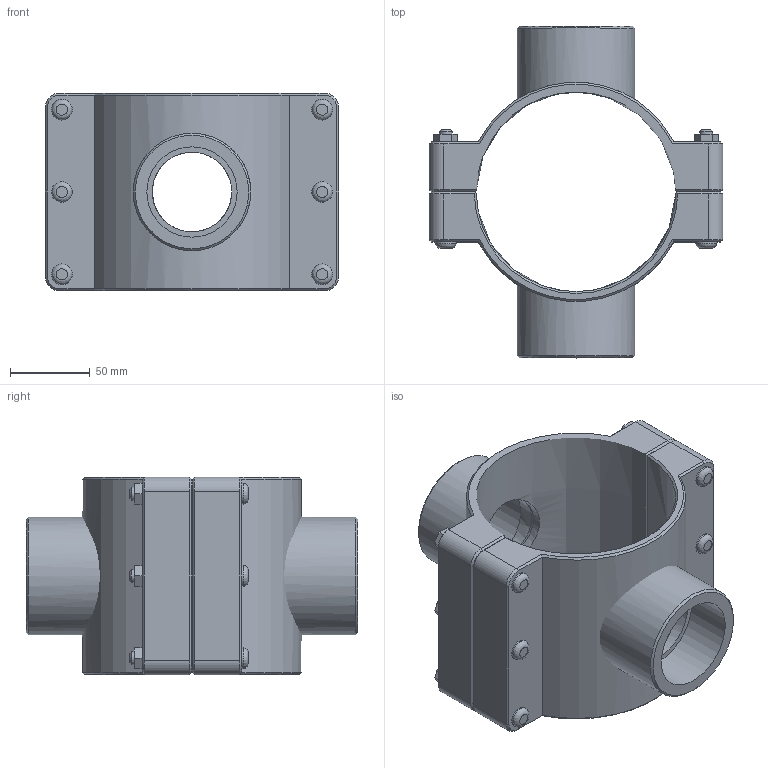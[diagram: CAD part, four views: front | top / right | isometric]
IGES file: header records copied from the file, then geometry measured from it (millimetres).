
Global section: file name: 161760125020_161860125020.ipt; native system: Autodesk Inventor 2015; preprocessor: unknown; author: KIM; date: 20170618.093755; units: millimetre
Bounding box: 184 x 208 x 124 mm (x, y, z)
Volume: 844940.1 mm3; surface area: 176280 mm2
Topology: 3 solids, 3 shells, 179 faces, 416 edges, 265 vertices
Faces by surface type: plane 102, cylinder 30, cone 28, revolution 19
Full cylindrical faces by diameter (mm): 8 x6, 13 x12, 73.653 x2
